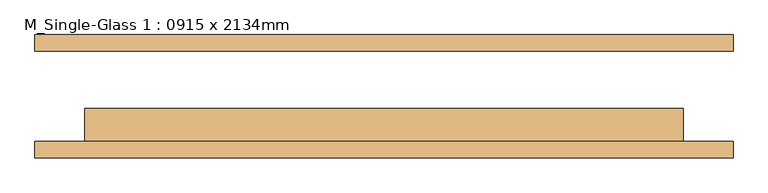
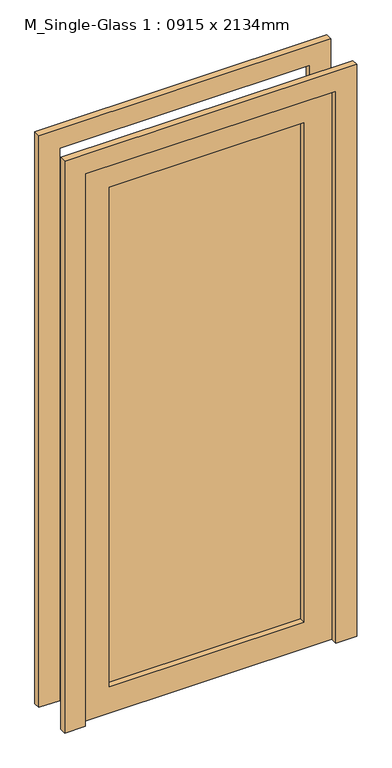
"""IFC4 building model written with IfcOpenShell, lengths in millimetres: door geometry, M_Single-Glass 1 : 0915 x 2134mm."""

from ifc_helpers import new_model, si_unit, frame, origin, place, context, project, spatial, polyline, outline, extrude, source, transform, mapped, element, save


def m_single_glass_1_0915_x_2134mm_4e5e1233(model_context):
    return source(origin(), model_context, "Body", "SweptSolid", [
        extrude(outline(polyline([(2134.0, 457.5), (0.0, 457.5), (0.0, 533.5), (2210.0, 533.5), (2210.0, -533.5), (0.0, -533.5), (0.0, -457.5), (2134.0, -457.5), (2134.0, 457.5)])), frame((0.0, 69.25, 0.0), z_axis=(0.0, 1.0, 0.0), x_axis=(0.0, 0.0, 1.0)), (0.0, 0.0, 1.0), 25.0),
        extrude(outline(polyline([(2134.0, 457.5), (0.0, 457.5), (0.0, 533.5), (2210.0, 533.5), (2210.0, -533.5), (0.0, -533.5), (0.0, -457.5), (2134.0, -457.5), (2134.0, 457.5)])), frame((0.0, -94.25, 0.0), z_axis=(0.0, 1.0, 0.0), x_axis=(0.0, 0.0, 1.0)), (0.0, 0.0, 1.0), 25.0),
        extrude(outline(polyline([(355.5, -40.675), (355.5, -47.025), (-355.5, -47.025), (-355.5, -40.675), (355.5, -40.675)])), frame((0.0, 0.0, 102.0), z_axis=(0.0, 0.0, 1.0), x_axis=(1.0, 0.0, 0.0)), (0.0, 0.0, 1.0), 1930.0),
        extrude(outline(polyline([(2134.0, 457.5), (2134.0, -457.5), (0.0, -457.5), (0.0, 457.5), (2134.0, 457.5)]), holes=[polyline([(2032.0, -355.5), (2032.0, 355.5), (102.0, 355.5), (102.0, -355.5), (2032.0, -355.5)])]), frame((0.0, -69.25, 0.0), z_axis=(0.0, 1.0, 0.0), x_axis=(0.0, 0.0, 1.0)), (0.0, 0.0, 1.0), 51.0),
    ])


if __name__ == "__main__":
    model = new_model("IFC4")
    model_context = context("Model", 3, world=origin())
    ifc_project = project(units=[si_unit("LENGTHUNIT", "METRE", prefix="MILLI")], contexts=[model_context])
    site = spatial("IfcSite", under=ifc_project)
    building = spatial("IfcBuilding", under=site)
    placement = place(None, origin())
    m_single_glass_1_0915_x_2134mm_shape = m_single_glass_1_0915_x_2134mm_4e5e1233(model_context)
    element("IfcDoor", 1, ObjectType="M_Single-Glass 1 : 0915 x 2134mm", at=placement, inside=building, context=model_context, shape_type="MappedRepresentation", body=[
        mapped(m_single_glass_1_0915_x_2134mm_shape, transform((0.0, 0.0, 0.0), x_axis=(1.0, 0.0, 0.0), y_axis=(0.0, 1.0, 0.0), z_axis=(0.0, 0.0, 1.0))),
    ])
    save(model, "model.ifc")
